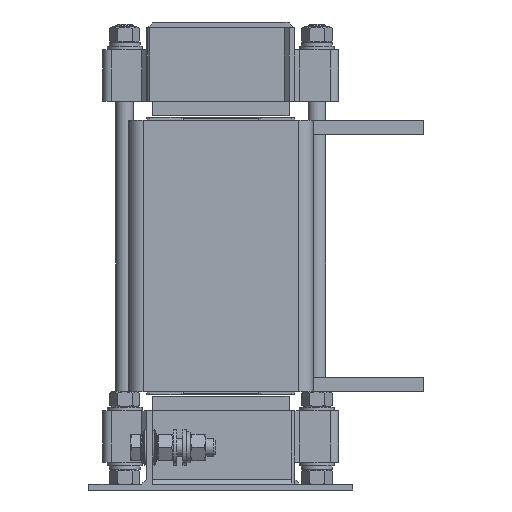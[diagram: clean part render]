
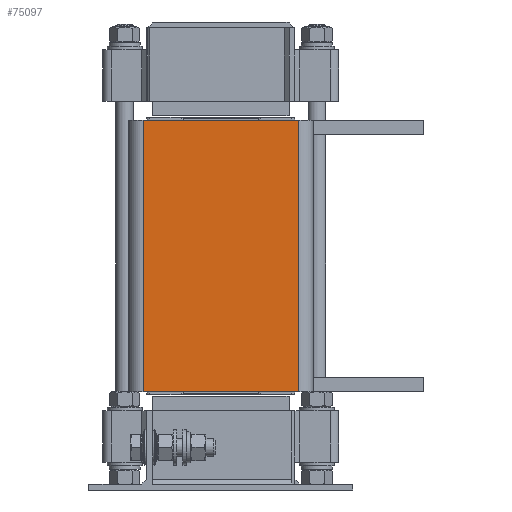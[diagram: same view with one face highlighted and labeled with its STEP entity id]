
A CAD part, left-side view. The second image highlights one B-rep face of the part: STEP entity #75097.
In plain terms, the highlighted planar face has unit normal (-1, 0, 0).
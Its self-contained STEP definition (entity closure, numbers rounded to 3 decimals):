
#74799=CARTESIAN_POINT('',(-191.5,-53.,-92.5));
#74800=VERTEX_POINT('',#74799);
#74809=CARTESIAN_POINT('',(-191.5,-53.,92.5));
#74810=VERTEX_POINT('',#74809);
#74818=CARTESIAN_POINT('',(-191.5,-53.,92.5));
#74819=DIRECTION('',(0.0,0.0,-1.0));
#74820=VECTOR('',#74819,185.);
#74821=LINE('',#74818,#74820);
#74822=EDGE_CURVE('',#74810,#74800,#74821,.T.);
#74872=CARTESIAN_POINT('',(-191.5,53.,92.5));
#74873=VERTEX_POINT('',#74872);
#74881=CARTESIAN_POINT('',(-191.5,53.,92.5));
#74882=DIRECTION('',(0.0,-1.0,0.0));
#74883=VECTOR('',#74882,106.);
#74884=LINE('',#74881,#74883);
#74885=EDGE_CURVE('',#74873,#74810,#74884,.T.);
#75046=CARTESIAN_POINT('',(-191.5,53.,-92.5));
#75047=VERTEX_POINT('',#75046);
#75055=CARTESIAN_POINT('',(-191.5,53.,-92.5));
#75056=DIRECTION('',(0.0,0.0,1.0));
#75057=VECTOR('',#75056,185.);
#75058=LINE('',#75055,#75057);
#75059=EDGE_CURVE('',#75047,#74873,#75058,.T.);
#75081=CARTESIAN_POINT('',(-191.5,-63.,0.0));
#75082=DIRECTION('',(-1.0,0.0,0.0));
#75083=DIRECTION('',(0.0,1.0,0.0));
#75084=AXIS2_PLACEMENT_3D('',#75081,#75082,#75083);
#75085=PLANE('',#75084);
#75086=ORIENTED_EDGE('',*,*,#74822,.F.);
#75087=ORIENTED_EDGE('',*,*,#74885,.F.);
#75088=ORIENTED_EDGE('',*,*,#75059,.F.);
#75089=CARTESIAN_POINT('',(-191.5,-53.,-92.5));
#75090=DIRECTION('',(0.0,1.0,0.0));
#75091=VECTOR('',#75090,106.);
#75092=LINE('',#75089,#75091);
#75093=EDGE_CURVE('',#74800,#75047,#75092,.T.);
#75094=ORIENTED_EDGE('',*,*,#75093,.F.);
#75095=EDGE_LOOP('',(#75086,#75087,#75088,#75094));
#75096=FACE_OUTER_BOUND('',#75095,.T.);
#75097=ADVANCED_FACE('',(#75096),#75085,.T.);
